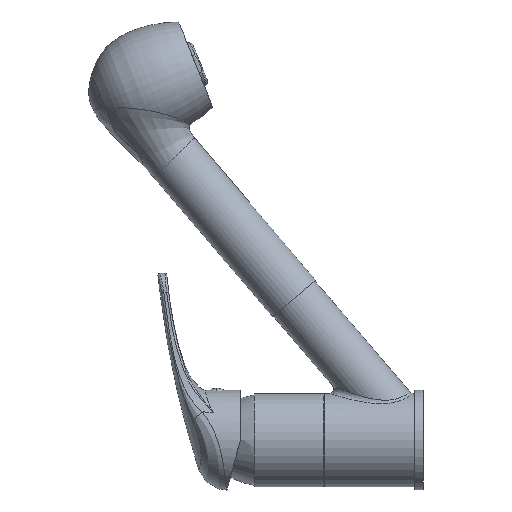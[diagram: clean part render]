
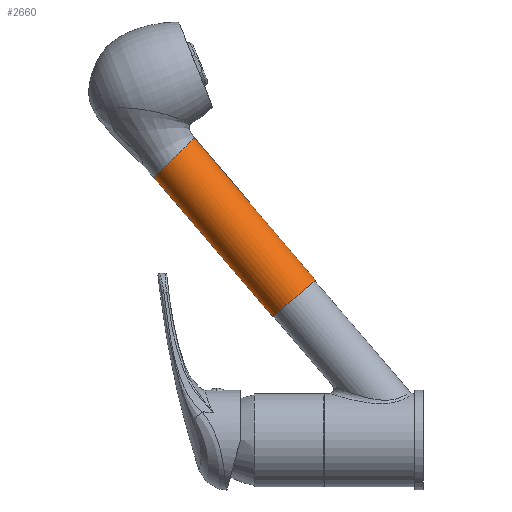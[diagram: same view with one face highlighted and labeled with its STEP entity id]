
A CAD part, top view. The second image highlights one B-rep face of the part: STEP entity #2660.
In plain terms, the highlighted cylindrical face has radius 14.75 mm (diameter 29.5 mm), a partial arc.
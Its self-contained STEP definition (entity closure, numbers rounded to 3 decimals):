
#2228=CARTESIAN_POINT('',(-62.431,0.,-2.271));
#2229=DIRECTION('',(0.948,0.,0.319));
#2230=DIRECTION('',(-0.319,0.,0.948));
#2231=AXIS2_PLACEMENT_3D('',#2228,#2229,#2230);
#2243=DIRECTION('',(0.948,0.,0.319));
#2244=VECTOR('',#2243,97.457);
#2245=CARTESIAN_POINT('',(-57.726,0.,-16.251));
#2246=LINE('',#2245,#2244);
#2247=DIRECTION('',(0.948,0.,0.319));
#2248=VECTOR('',#2247,95.471);
#2249=CARTESIAN_POINT('',(-67.136,0.,
11.708));
#2250=LINE('',#2249,#2248);
#2251=CARTESIAN_POINT('',(23.349,0.,
42.16));
#2252=CARTESIAN_POINT('',(23.349,-0.623,
42.16));
#2253=CARTESIAN_POINT('',(23.372,-1.537,42.105));
#2254=CARTESIAN_POINT('',(23.441,-2.706,41.936));
#2255=CARTESIAN_POINT('',(23.512,-3.556,41.765));
#2256=CARTESIAN_POINT('',(23.6,-4.376,41.552));
#2257=CARTESIAN_POINT('',(23.738,-5.43,41.218));
#2258=CARTESIAN_POINT('',(23.947,-6.669,40.713));
#2259=CARTESIAN_POINT('',(24.246,-8.025,39.99));
#2260=CARTESIAN_POINT('',(24.585,-9.25,39.169));
#2261=CARTESIAN_POINT('',(24.957,-10.341,38.269));
#2262=CARTESIAN_POINT('',(25.355,-11.304,37.306));
#2263=CARTESIAN_POINT('',(25.773,-12.139,36.293));
#2264=CARTESIAN_POINT('',(26.208,-12.852,35.24));
#2265=CARTESIAN_POINT('',(26.657,-13.447,34.155));
#2266=CARTESIAN_POINT('',(27.268,-14.088,32.677));
#2267=CARTESIAN_POINT('',(28.047,-14.613,30.791));
#2268=CARTESIAN_POINT('',(28.995,-14.818,28.497));
#2269=CARTESIAN_POINT('',(29.943,-14.613,26.203));
#2270=CARTESIAN_POINT('',(30.878,-13.983,23.94));
#2271=CARTESIAN_POINT('',(31.788,-12.912,21.738));
#2272=CARTESIAN_POINT('',(32.645,-11.367,19.664));
#2273=CARTESIAN_POINT('',(33.421,-9.316,17.785));
#2274=CARTESIAN_POINT('',(34.067,-6.735,16.223));
#2275=CARTESIAN_POINT('',(34.52,-3.629,15.126));
#2276=CARTESIAN_POINT('',(34.641,-1.246,14.834));
#2277=CARTESIAN_POINT('',(34.641,0.,
14.834));
#2316=CARTESIAN_POINT('',(23.349,0.,
42.16));
#2559=CARTESIAN_POINT('',(-57.726,0.,
-16.251));
#2560=CARTESIAN_POINT('',(-67.136,0.,11.708));
#2561=VERTEX_POINT('',#2559);
#2562=VERTEX_POINT('',#2560);
#2563=CARTESIAN_POINT('',(34.641,0.,
14.834));
#2564=VERTEX_POINT('',#2563);
#2565=VERTEX_POINT('',#2316);
#2648=CARTESIAN_POINT('',(-62.431,0.,-2.271));
#2649=DIRECTION('',(0.948,0.,0.319));
#2650=DIRECTION('',(0.319,0.,-0.948));
#2651=AXIS2_PLACEMENT_3D('',#2648,#2649,#2650);
#2652=CYLINDRICAL_SURFACE('',#2651,14.75);
#2653=ORIENTED_EDGE('',*,*,#2623,.F.);
#2654=ORIENTED_EDGE('',*,*,#2643,.T.);
#2656=ORIENTED_EDGE('',*,*,#2655,.T.);
#2657=ORIENTED_EDGE('',*,*,#2639,.F.);
#2658=EDGE_LOOP('',(#2653,#2654,#2656,#2657));
#2659=FACE_OUTER_BOUND('',#2658,.F.);
#2232=CIRCLE('',#2231,14.75);
#2278=B_SPLINE_CURVE_WITH_KNOTS('',3,(#2251,#2252,#2253,#2254,#2255,#2256,#2257,
#2258,#2259,#2260,#2261,#2262,#2263,#2264,#2265,#2266,#2267,#2268,#2269,#2270,
#2271,#2272,#2273,#2274,#2275,#2276,#2277),.UNSPECIFIED.,.F.,.F.,(4,1,1,1,1,1,1,
1,1,1,1,1,1,1,1,1,1,1,1,1,1,1,1,1,4),(0.,0.031,0.047,
0.062,0.078,0.094,0.125,
0.156,0.187,0.219,0.25,
0.281,0.312,0.344,0.375,
0.437,0.5,0.562,0.625,
0.687,0.75,0.812,0.875,
0.937,1.),.UNSPECIFIED.);
#2623=EDGE_CURVE('',#2562,#2561,#2232,.T.);
#2639=EDGE_CURVE('',#2561,#2564,#2246,.T.);
#2643=EDGE_CURVE('',#2562,#2565,#2250,.T.);
#2655=EDGE_CURVE('',#2565,#2564,#2278,.T.);
#2660=ADVANCED_FACE('',(#2659),#2652,.T.);
